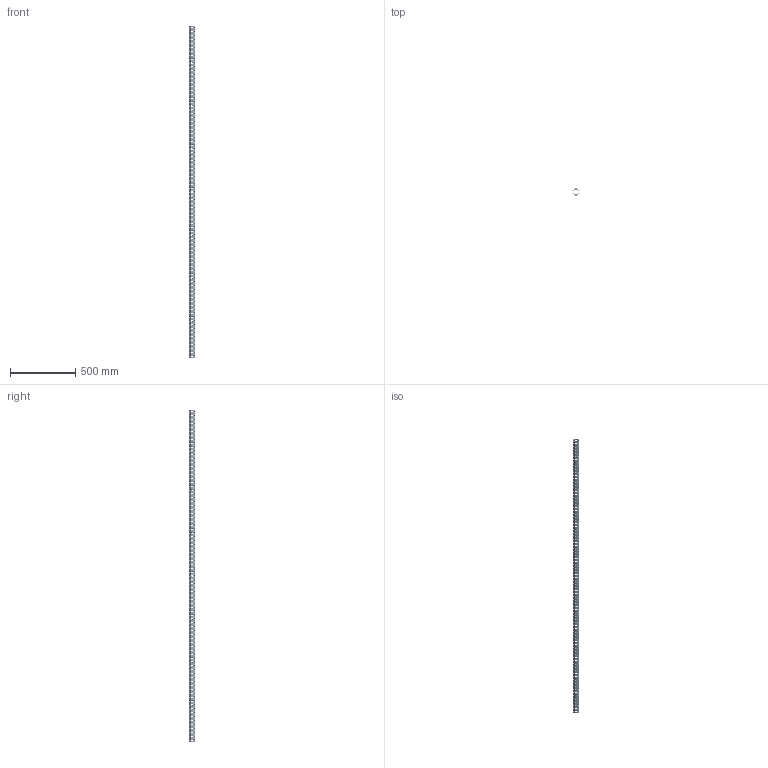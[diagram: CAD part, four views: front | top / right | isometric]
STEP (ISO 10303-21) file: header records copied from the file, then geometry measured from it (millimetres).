
FILE_DESCRIPTION(('CATIA V5 STEP Exchange'),'2;1');
FILE_NAME('U:\Room\唐宝山\EGT002\46-01-010314-01-EGT002-2548.stp','2021-08-24T02:13:02+00:00',('none'),('none'),'CATIA Version 5 Release 21 GA (IN-10)','CATIA V5 STEP AP203','none');
FILE_SCHEMA(('CONFIG_CONTROL_DESIGN'));
Products named in the file (1): 46-01-010314-01-EGT002-2548
Bounding box: 50 x 50 x 2548 mm (x, y, z)
Volume: 1815501.6 mm3; surface area: 874783.6 mm2
Topology: 1 solids, 1 shells, 3484 faces, 9596 edges, 5944 vertices
Faces by surface type: cone 2040, cylinder 1418, plane 26
Entity records: 148972 total; most frequent: CARTESIAN_POINT 65301, ORIENTED_EDGE 19192, DIRECTION 13229, EDGE_CURVE 9596, AXIS2_PLACEMENT_3D 6046, VERTEX_POINT 5944, EDGE_LOOP 4676, VECTOR 3700
